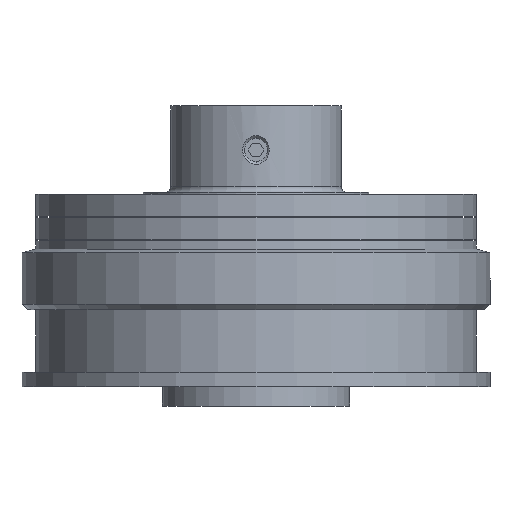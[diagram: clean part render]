
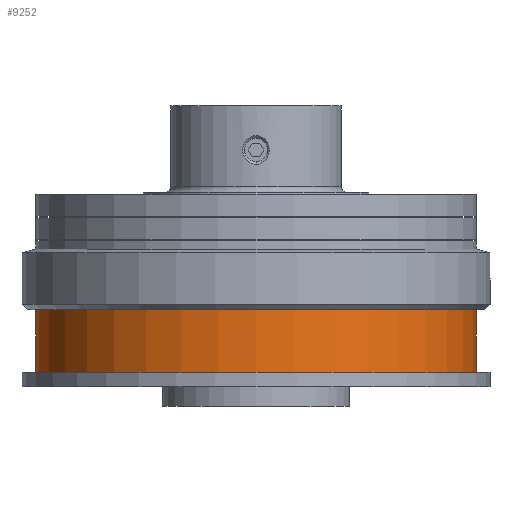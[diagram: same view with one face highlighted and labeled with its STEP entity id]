
A CAD part, front view. The second image highlights one B-rep face of the part: STEP entity #9252.
In plain terms, the highlighted cylindrical face has radius 40 mm (diameter 80 mm), a partial arc.
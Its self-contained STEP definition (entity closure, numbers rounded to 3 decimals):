
#598 = AXIS2_PLACEMENT_3D ( 'NONE', #2993, #2994, #2995 ) ;
#653 = AXIS2_PLACEMENT_3D ( 'NONE', #3193, #3182, #3201 ) ;
#2352 = DIRECTION ( 'NONE',  ( 0., 0., 1. ) ) ;
#2418 = DIRECTION ( 'NONE',  ( 0., 0., 1. ) ) ;
#2421 = DIRECTION ( 'NONE',  ( 1., 0., 0. ) ) ;
#2424 = CARTESIAN_POINT ( 'NONE',  ( 0., 0., 2.6 ) ) ;
#2483 = CARTESIAN_POINT ( 'NONE',  ( -40., 0., 2.6 ) ) ;
#2729 = EDGE_LOOP ( 'NONE', ( #2765, #2781, #2780, #2763 ) ) ;
#2763 = ORIENTED_EDGE ( 'NONE', *, *, #6913, .F. ) ;
#2765 = ORIENTED_EDGE ( 'NONE', *, *, #6467, .F. ) ;
#2780 = ORIENTED_EDGE ( 'NONE', *, *, #6682, .T. ) ;
#2781 = ORIENTED_EDGE ( 'NONE', *, *, #6599, .T. ) ;
#2993 = CARTESIAN_POINT ( 'NONE',  ( 0., 0., 14. ) ) ;
#2994 = DIRECTION ( 'NONE',  ( 0., 0., 1. ) ) ;
#2995 = DIRECTION ( 'NONE',  ( -1., 0., 0. ) ) ;
#3118 = CARTESIAN_POINT ( 'NONE',  ( 40., 0., 2.6 ) ) ;
#3139 = CARTESIAN_POINT ( 'NONE',  ( -40., 0., 2.6 ) ) ;
#3140 = CARTESIAN_POINT ( 'NONE',  ( 40., 0., 14. ) ) ;
#3141 = CARTESIAN_POINT ( 'NONE',  ( -40., 0., 14. ) ) ;
#3182 = DIRECTION ( 'NONE',  ( 0., 0., 1. ) ) ;
#3193 = CARTESIAN_POINT ( 'NONE',  ( 0., 0., 2.6 ) ) ;
#3201 = DIRECTION ( 'NONE',  ( 1., 0., 0. ) ) ;
#5034 = FACE_OUTER_BOUND ( 'NONE', #2729, .T. ) ;
#5042 = CYLINDRICAL_SURFACE ( 'NONE', #653, 40. ) ;
#5689 = CARTESIAN_POINT ( 'NONE',  ( 40., 0., 2.6 ) ) ;
#5764 = DIRECTION ( 'NONE',  ( 0., 0., 1. ) ) ;
#6467 = EDGE_CURVE ( 'NONE', #7805, #7807, #7433, .T. ) ;
#6593 = AXIS2_PLACEMENT_3D ( 'NONE', #2424, #2418, #2421 ) ;
#6599 = EDGE_CURVE ( 'NONE', #7805, #7784, #7490, .T. ) ;
#6682 = EDGE_CURVE ( 'NONE', #7784, #7806, #7606, .T. ) ;
#6913 = EDGE_CURVE ( 'NONE', #7807, #7806, #10021, .T. ) ;
#7433 = LINE ( 'NONE', #2483, #7436 ) ;
#7436 = VECTOR ( 'NONE', #2352, 1000. ) ;
#7490 = CIRCLE ( 'NONE', #6593, 40. ) ;
#7606 = LINE ( 'NONE', #5689, #7609 ) ;
#7609 = VECTOR ( 'NONE', #5764, 1000. ) ;
#7784 = VERTEX_POINT ( 'NONE', #3118 ) ;
#7805 = VERTEX_POINT ( 'NONE', #3139 ) ;
#7806 = VERTEX_POINT ( 'NONE', #3140 ) ;
#7807 = VERTEX_POINT ( 'NONE', #3141 ) ;
#9252 = ADVANCED_FACE ( 'NONE', ( #5034 ), #5042, .T. ) ;
#10021 = CIRCLE ( 'NONE', #598, 40. ) ;
